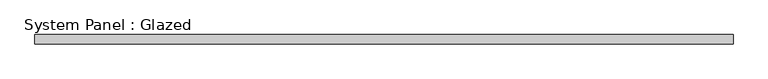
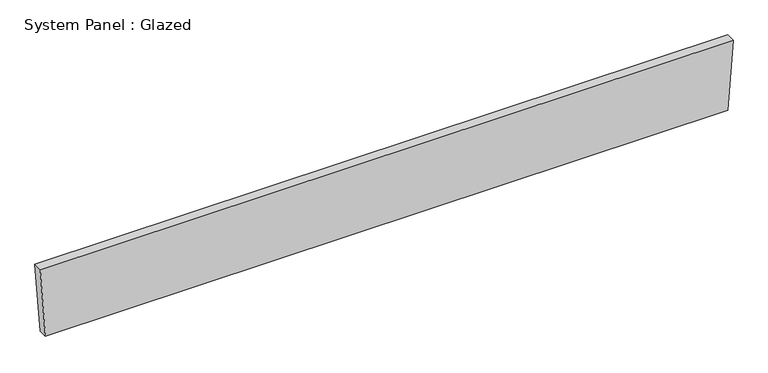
"""IFC4 building model written with IfcOpenShell, lengths in millimetres: plate geometry, System Panel : Glazed."""

import ifcopenshell
import ifcopenshell.guid

model = None  # the IFC model being written
_history = None  # IfcOwnerHistory: only IFC2X3 demands one
_inside = {}  # id of a spatial element -> (the spatial element, [elements in it])
_under = {}  # id of a project, library or spatial element -> (it, [spatial elements below it])
_declared = {}  # id of a project -> (the project, [libraries it declares])
_typed = {}  # id of a type object -> (the type object, [elements of that type])
_made_of = {}  # id of a material, layer set ... -> (it, [elements and type objects made of it])


def new_model(schema):
    """Start an empty IFC model of exactly this schema.

    Asked for "IFC4X3", IfcOpenShell would pick the latest addendum, in which some entities
    have other attributes; the version numbers below select the first issue.
    IFC2X3 requires an IfcOwnerHistory on every rooted entity: one is made here for all.
    """
    global model, _history
    if schema == "IFC4X3":
        model = ifcopenshell.file(schema_version=(4, 3, 0, 0))
    else:
        model = ifcopenshell.file(schema=schema)
    _inside.clear()
    _under.clear()
    _declared.clear()
    _typed.clear()
    _made_of.clear()
    _history = None
    if model.schema == "IFC2X3":
        org = make("IfcOrganization", Name="unknown")
        user = make(
            "IfcPersonAndOrganization",
            ThePerson=make("IfcPerson", FamilyName="unknown"),
            TheOrganization=org,
        )
        app = make(
            "IfcApplication",
            ApplicationDeveloper=org,
            Version="unknown",
            ApplicationFullName="unknown",
            ApplicationIdentifier="unknown",
        )
        _history = make(
            "IfcOwnerHistory",
            OwningUser=user,
            OwningApplication=app,
            ChangeAction="ADDED",
            CreationDate=0,
        )
    return model


def make(cls, **values):
    """One entity of the class cls with the attributes given. An attribute that is None is left unset."""
    return model.create_entity(
        cls, **{name: value for name, value in values.items() if value is not None}
    )


def rooted(cls, **values):
    """An entity with a GlobalId (a new one), such as an element, a storey or a relation."""
    return make(cls, GlobalId=ifcopenshell.guid.new(), OwnerHistory=_history, **values)


def si_unit(unit_type, name, prefix=None):
    """IfcSIUnit, for example si_unit("LENGTHUNIT", "METRE", prefix="MILLI")."""
    return make("IfcSIUnit", UnitType=unit_type, Prefix=prefix, Name=name)


def assignment(units):
    """IfcUnitAssignment: the units of a project."""
    return None if units is None else make("IfcUnitAssignment", Units=units)


def point(xyz):
    """IfcCartesianPoint."""
    return None if xyz is None else make("IfcCartesianPoint", Coordinates=xyz)


def direction(xyz):
    """IfcDirection."""
    return None if xyz is None else make("IfcDirection", DirectionRatios=xyz)


def frame(location, z_axis=None, x_axis=None):
    """IfcAxis2Placement3D, a coordinate frame: its origin and axes. An axis left out is left unset."""
    return make(
        "IfcAxis2Placement3D",
        Location=point(location),
        Axis=direction(z_axis),
        RefDirection=direction(x_axis),
    )


def origin():
    """The frame at (0, 0, 0) with its axes left unset."""
    return frame((0.0, 0.0, 0.0))


def place(relative_to, where):
    """IfcLocalPlacement: puts the frame where relative to a parent placement (None: the world)."""
    return make(
        "IfcLocalPlacement", PlacementRelTo=relative_to, RelativePlacement=where
    )


def context(
    kind, dimensions, precision=None, world=None, true_north=None, identifier=None
):
    """IfcGeometricRepresentationContext, for example the 3D "Model" context."""
    return make(
        "IfcGeometricRepresentationContext",
        ContextIdentifier=identifier,
        ContextType=kind,
        CoordinateSpaceDimension=dimensions,
        Precision=precision,
        WorldCoordinateSystem=world,
        TrueNorth=true_north,
    )


def project(units=None, contexts=None):
    """IfcProject with its units and contexts."""
    return rooted(
        "IfcProject",
        Name="project",
        RepresentationContexts=contexts,
        UnitsInContext=assignment(units),
    )


def spatial(cls, under=None, at=None, **own):
    """A site, building, storey or space (cls), placed at a placement, below another one or the project."""
    s = rooted(cls, ObjectPlacement=at, **own)
    if under is not None:
        _under.setdefault(under.id(), (under, []))[1].append(s)
    return s


def polyline(points):
    """IfcPolyline through the points."""
    return make("IfcPolyline", Points=[point(p) for p in points])


def outline(outer, holes=None, kind="AREA"):
    """IfcArbitraryClosedProfileDef: a profile drawn as a closed curve; with holes, ...WithVoids."""
    if holes is None:
        return make("IfcArbitraryClosedProfileDef", ProfileType=kind, OuterCurve=outer)
    return make(
        "IfcArbitraryProfileDefWithVoids",
        ProfileType=kind,
        OuterCurve=outer,
        InnerCurves=holes,
    )


def extrude(swept, where, along, depth):
    """IfcExtrudedAreaSolid: the profile swept, set in the frame where, extruded along a direction by depth."""
    return make(
        "IfcExtrudedAreaSolid",
        SweptArea=swept,
        Position=where,
        ExtrudedDirection=direction(along),
        Depth=depth,
    )


def shape(context_of_items, identifier, shape_type, items):
    """IfcShapeRepresentation: the items that make up one representation, for example the "Body"."""
    return make(
        "IfcShapeRepresentation",
        ContextOfItems=context_of_items,
        RepresentationIdentifier=identifier,
        RepresentationType=shape_type,
        Items=items,
    )


def source(mapping_origin, context_of_items, identifier, shape_type, items):
    """IfcRepresentationMap: a shape defined once, which mapped items show again and again."""
    return make(
        "IfcRepresentationMap",
        MappingOrigin=mapping_origin,
        MappedRepresentation=shape(context_of_items, identifier, shape_type, items),
    )


def transform(
    local_origin,
    x_axis=None,
    y_axis=None,
    z_axis=None,
    scale=None,
    scale2=None,
    scale3=None,
    uniform=True,
):
    """IfcCartesianTransformationOperator3D, or its non-uniform kind. x_axis, y_axis, z_axis: its Axis1, 2, 3."""
    if uniform:
        return make(
            "IfcCartesianTransformationOperator3D",
            Axis1=direction(x_axis),
            Axis2=direction(y_axis),
            LocalOrigin=point(local_origin),
            Scale=scale,
            Axis3=direction(z_axis),
        )
    return make(
        "IfcCartesianTransformationOperator3DnonUniform",
        Axis1=direction(x_axis),
        Axis2=direction(y_axis),
        LocalOrigin=point(local_origin),
        Scale=scale,
        Axis3=direction(z_axis),
        Scale2=scale2,
        Scale3=scale3,
    )


def mapped(mapping_source, mapping_target):
    """IfcMappedItem: shows the shape of a source again, moved by a transform."""
    return make(
        "IfcMappedItem", MappingSource=mapping_source, MappingTarget=mapping_target
    )


def made_of(thing, what):
    """Note that an element or type object is made of a material, layer set ...; save() writes the relation."""
    if what is not None:
        _made_of.setdefault(what.id(), (what, []))[1].append(thing)
    return thing


def element(
    cls,
    number,
    at=None,
    inside=None,
    cuts=None,
    type_object=None,
    material=None,
    context=None,
    identifier="Body",
    shape_type=None,
    held_by="IfcProductDefinitionShape",
    body=None,
    shapes=None,
    **own,
):
    """One element of the class cls, such as IfcWall. Its Tag is "e" and its number.

    at: its placement. inside: the storey or other place that contains it. cuts: it is an
    opening in that element (IfcRelVoidsElement). A single representation is given by context,
    identifier, shape_type and body (its items); several are given by shapes. held_by: the class
    of the entity that holds the representations. save() writes the other relations.
    """
    e = rooted(cls, Tag="e%d" % number, ObjectPlacement=at, **own)
    if body is not None:
        shapes = [shape(context, identifier, shape_type, body)]
    if shapes is not None:
        e.Representation = make(held_by, Representations=shapes)
    if inside is not None:
        _inside.setdefault(inside.id(), (inside, []))[1].append(e)
    if cuts is not None:
        rooted(
            "IfcRelVoidsElement", RelatingBuildingElement=cuts, RelatedOpeningElement=e
        )
    if type_object is not None:
        _typed.setdefault(type_object.id(), (type_object, []))[1].append(e)
    return made_of(e, material)


def aggregate(whole, parts):
    """IfcRelAggregates: a whole, such as a stair, and the parts it consists of."""
    return rooted("IfcRelAggregates", RelatingObject=whole, RelatedObjects=parts)


def save(model, path):
    """Write the relations noted so far, then the file.

    IfcRelAggregates (storeys below a building ...), IfcRelContainedInSpatialStructure (elements
    in a storey), IfcRelDefinesByType, IfcRelAssociatesMaterial and IfcRelDeclares: one each for
    every whole, place, type object, material and project.
    """
    for whole, parts in _under.values():
        aggregate(whole, parts)
    for where, things in _inside.values():
        rooted(
            "IfcRelContainedInSpatialStructure",
            RelatedElements=things,
            RelatingStructure=where,
        )
    for kind, things in _typed.values():
        rooted("IfcRelDefinesByType", RelatedObjects=things, RelatingType=kind)
    for what, things in _made_of.values():
        rooted("IfcRelAssociatesMaterial", RelatedObjects=things, RelatingMaterial=what)
    for by, libraries in _declared.values():
        rooted("IfcRelDeclares", RelatingContext=by, RelatedDefinitions=libraries)
    model.write(path)


def system_panel_glazed_273e2fa2(model_context):
    return source(origin(), model_context, "Body", "SweptSolid", [
        extrude(outline(polyline([(0.0, -951.6915904), (0.0, 951.6915904), (201.7956974, 966.0842371), (201.7956974, -966.0842371), (0.0, -951.6915904)])), frame((0.0, 19.05, 0.0), z_axis=(0.0, 1.0, 0.0), x_axis=(0.0, 0.0, 1.0)), (0.0, 0.0, 1.0), 25.4),
    ])


if __name__ == "__main__":
    model = new_model("IFC4")
    model_context = context("Model", 3, world=origin())
    ifc_project = project(units=[si_unit("LENGTHUNIT", "METRE", prefix="MILLI")], contexts=[model_context])
    site = spatial("IfcSite", under=ifc_project)
    building = spatial("IfcBuilding", under=site)
    placement = place(None, origin())
    system_panel_glazed_shape = system_panel_glazed_273e2fa2(model_context)
    element("IfcPlate", 1, ObjectType="System Panel : Glazed", at=placement, inside=building, context=model_context, shape_type="MappedRepresentation", body=[
        mapped(system_panel_glazed_shape, transform((0.0, 0.0, 0.0), x_axis=(1.0, 0.0, 0.0), y_axis=(0.0, 1.0, 0.0), z_axis=(0.0, 0.0, 1.0))),
    ])
    save(model, "model.ifc")
